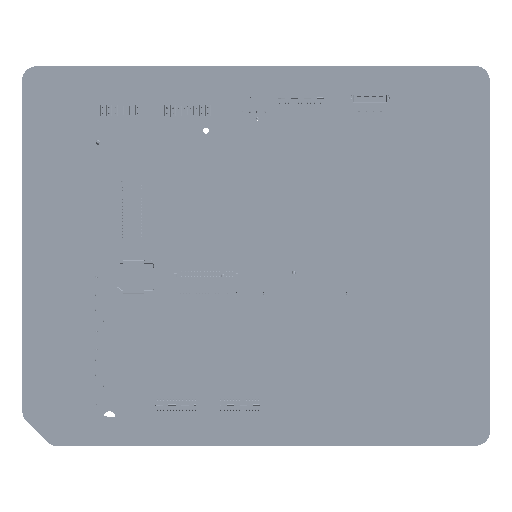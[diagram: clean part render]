
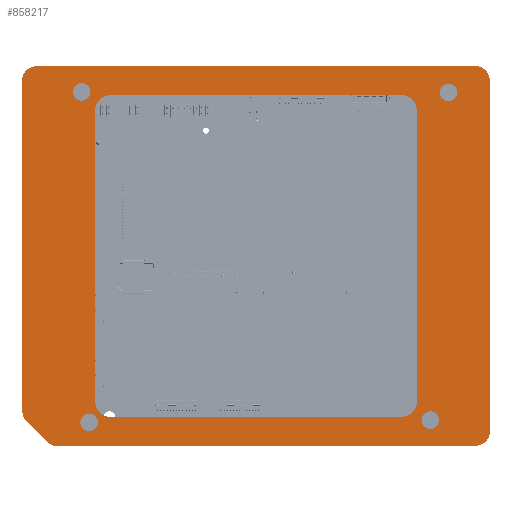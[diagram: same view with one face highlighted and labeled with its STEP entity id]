
A CAD part, front view. The second image highlights one B-rep face of the part: STEP entity #858217.
In plain terms, the highlighted planar face has unit normal (0, -1, 0).
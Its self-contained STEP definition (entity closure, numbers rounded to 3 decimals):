
#857464=CARTESIAN_POINT('',(-75.,0.,60.));
#857465=DIRECTION('',(0.,1.,0.));
#857466=DIRECTION('',(-1.,0.,0.));
#857467=AXIS2_PLACEMENT_3D('',#857464,#857465,#857466);
#857472=CARTESIAN_POINT('',(75.,0.,60.));
#857473=DIRECTION('',(0.,1.,0.));
#857474=DIRECTION('',(0.,0.,1.));
#857475=AXIS2_PLACEMENT_3D('',#857472,#857473,#857474);
#857480=CARTESIAN_POINT('',(75.,0.,-60.));
#857481=DIRECTION('',(0.,1.,0.));
#857482=DIRECTION('',(1.,0.,0.));
#857483=AXIS2_PLACEMENT_3D('',#857480,#857481,#857482);
#857488=CARTESIAN_POINT('',(-67.929,0.,-60.));
#857489=DIRECTION('',(0.,1.,0.));
#857490=DIRECTION('',(0.,0.,-1.));
#857491=AXIS2_PLACEMENT_3D('',#857488,#857489,#857490);
#857496=DIRECTION('',(-0.707,0.,0.707));
#857497=VECTOR('',#857496,10.);
#857498=CARTESIAN_POINT('',(-71.464,0.,-63.536));
#857499=LINE('',#857498,#857497);
#857503=CARTESIAN_POINT('',(-75.,0.,-52.929));
#857504=DIRECTION('',(0.,1.,0.));
#857505=DIRECTION('',(-0.707,0.,-0.707));
#857506=AXIS2_PLACEMENT_3D('',#857503,#857504,#857505);
#857511=CARTESIAN_POINT('',(65.89,0.,55.951));
#857512=DIRECTION('',(0.,-1.,0.));
#857513=DIRECTION('',(-1.,0.,0.));
#857514=AXIS2_PLACEMENT_3D('',#857511,#857512,#857513);
#857519=CARTESIAN_POINT('',(65.89,0.,55.951));
#857520=DIRECTION('',(0.,-1.,0.));
#857521=DIRECTION('',(1.,0.,0.));
#857522=AXIS2_PLACEMENT_3D('',#857519,#857520,#857521);
#857527=CARTESIAN_POINT('',(59.578,0.,-56.172));
#857528=DIRECTION('',(0.,-1.,0.));
#857529=DIRECTION('',(-1.,0.,0.));
#857530=AXIS2_PLACEMENT_3D('',#857527,#857528,#857529);
#857535=CARTESIAN_POINT('',(59.578,0.,-56.172));
#857536=DIRECTION('',(0.,-1.,0.));
#857537=DIRECTION('',(1.,0.,0.));
#857538=AXIS2_PLACEMENT_3D('',#857535,#857536,#857537);
#857543=CARTESIAN_POINT('',(-57.139,0.,-56.85));
#857544=DIRECTION('',(0.,-1.,0.));
#857545=DIRECTION('',(-1.,0.,0.));
#857546=AXIS2_PLACEMENT_3D('',#857543,#857544,#857545);
#857551=CARTESIAN_POINT('',(-57.139,0.,-56.85));
#857552=DIRECTION('',(0.,-1.,0.));
#857553=DIRECTION('',(1.,0.,0.));
#857554=AXIS2_PLACEMENT_3D('',#857551,#857552,#857553);
#857559=CARTESIAN_POINT('',(-50.,0.,-50.));
#857560=DIRECTION('',(0.,-1.,0.));
#857561=DIRECTION('',(-1.,0.,0.));
#857562=AXIS2_PLACEMENT_3D('',#857559,#857560,#857561);
#857567=CARTESIAN_POINT('',(50.,0.,-50.));
#857568=DIRECTION('',(0.,-1.,0.));
#857569=DIRECTION('',(0.,0.,-1.));
#857570=AXIS2_PLACEMENT_3D('',#857567,#857568,#857569);
#857575=CARTESIAN_POINT('',(50.,0.,50.));
#857576=DIRECTION('',(0.,-1.,0.));
#857577=DIRECTION('',(1.,0.,0.));
#857578=AXIS2_PLACEMENT_3D('',#857575,#857576,#857577);
#857583=CARTESIAN_POINT('',(-50.,0.,50.));
#857584=DIRECTION('',(0.,-1.,0.));
#857585=DIRECTION('',(0.,0.,1.));
#857586=AXIS2_PLACEMENT_3D('',#857583,#857584,#857585);
#857591=CARTESIAN_POINT('',(-59.586,0.,56.182));
#857592=DIRECTION('',(0.,-1.,0.));
#857593=DIRECTION('',(-1.,0.,0.));
#857594=AXIS2_PLACEMENT_3D('',#857591,#857592,#857593);
#857599=CARTESIAN_POINT('',(-59.586,0.,56.182));
#857600=DIRECTION('',(0.,-1.,0.));
#857601=DIRECTION('',(1.,0.,0.));
#857602=AXIS2_PLACEMENT_3D('',#857599,#857600,#857601);
#857621=DIRECTION('',(0.,0.,-1.));
#857622=VECTOR('',#857621,112.929);
#857623=CARTESIAN_POINT('',(-80.,0.,60.));
#857624=LINE('',#857623,#857622);
#857855=DIRECTION('',(1.,0.,0.));
#857856=VECTOR('',#857855,142.929);
#857857=CARTESIAN_POINT('',(-67.929,0.,-65.));
#857858=LINE('',#857857,#857856);
#857876=DIRECTION('',(0.,0.,1.));
#857877=VECTOR('',#857876,120.);
#857878=CARTESIAN_POINT('',(80.,0.,-60.));
#857879=LINE('',#857878,#857877);
#857897=DIRECTION('',(-1.,0.,0.));
#857898=VECTOR('',#857897,150.);
#857899=CARTESIAN_POINT('',(75.,0.,65.));
#857900=LINE('',#857899,#857898);
#857946=DIRECTION('',(-1.,0.,0.));
#857947=VECTOR('',#857946,100.);
#857948=CARTESIAN_POINT('',(50.,0.,-55.));
#857949=LINE('',#857948,#857947);
#857967=DIRECTION('',(0.,0.,1.));
#857968=VECTOR('',#857967,100.);
#857969=CARTESIAN_POINT('',(-55.,0.,-50.));
#857970=LINE('',#857969,#857968);
#857988=DIRECTION('',(1.,0.,0.));
#857989=VECTOR('',#857988,100.);
#857990=CARTESIAN_POINT('',(-50.,0.,55.));
#857991=LINE('',#857990,#857989);
#858009=DIRECTION('',(0.,0.,-1.));
#858010=VECTOR('',#858009,100.);
#858011=CARTESIAN_POINT('',(55.,0.,50.));
#858012=LINE('',#858011,#858010);
#858044=CARTESIAN_POINT('',(-80.,0.,60.));
#858045=CARTESIAN_POINT('',(-75.,0.,65.));
#858046=VERTEX_POINT('',#858044);
#858047=VERTEX_POINT('',#858045);
#858048=CARTESIAN_POINT('',(75.,0.,65.));
#858049=VERTEX_POINT('',#858048);
#858050=CARTESIAN_POINT('',(80.,0.,60.));
#858051=VERTEX_POINT('',#858050);
#858052=CARTESIAN_POINT('',(80.,0.,-60.));
#858053=VERTEX_POINT('',#858052);
#858054=CARTESIAN_POINT('',(75.,0.,-65.));
#858055=VERTEX_POINT('',#858054);
#858056=CARTESIAN_POINT('',(-67.929,0.,-65.));
#858057=VERTEX_POINT('',#858056);
#858058=CARTESIAN_POINT('',(-71.464,0.,-63.536));
#858059=VERTEX_POINT('',#858058);
#858060=CARTESIAN_POINT('',(-78.536,0.,-56.464));
#858061=VERTEX_POINT('',#858060);
#858062=CARTESIAN_POINT('',(-80.,0.,-52.929));
#858063=VERTEX_POINT('',#858062);
#858064=CARTESIAN_POINT('',(64.24,0.,55.951));
#858065=CARTESIAN_POINT('',(67.54,0.,55.951));
#858066=VERTEX_POINT('',#858064);
#858067=VERTEX_POINT('',#858065);
#858068=CARTESIAN_POINT('',(57.928,0.,-56.172));
#858069=CARTESIAN_POINT('',(61.228,0.,-56.172));
#858070=VERTEX_POINT('',#858068);
#858071=VERTEX_POINT('',#858069);
#858072=CARTESIAN_POINT('',(-58.789,0.,-56.85));
#858073=CARTESIAN_POINT('',(-55.489,0.,-56.85));
#858074=VERTEX_POINT('',#858072);
#858075=VERTEX_POINT('',#858073);
#858076=CARTESIAN_POINT('',(-55.,0.,-50.));
#858077=CARTESIAN_POINT('',(-55.,0.,50.));
#858078=VERTEX_POINT('',#858076);
#858079=VERTEX_POINT('',#858077);
#858080=CARTESIAN_POINT('',(-50.,0.,-55.));
#858081=VERTEX_POINT('',#858080);
#858082=CARTESIAN_POINT('',(50.,0.,-55.));
#858083=VERTEX_POINT('',#858082);
#858084=CARTESIAN_POINT('',(55.,0.,-50.));
#858085=VERTEX_POINT('',#858084);
#858086=CARTESIAN_POINT('',(55.,0.,50.));
#858087=VERTEX_POINT('',#858086);
#858088=CARTESIAN_POINT('',(50.,0.,55.));
#858089=VERTEX_POINT('',#858088);
#858090=CARTESIAN_POINT('',(-50.,0.,55.));
#858091=VERTEX_POINT('',#858090);
#858092=CARTESIAN_POINT('',(-61.236,0.,56.182));
#858093=CARTESIAN_POINT('',(-57.936,0.,56.182));
#858094=VERTEX_POINT('',#858092);
#858095=VERTEX_POINT('',#858093);
#858148=CARTESIAN_POINT('',(0.,0.,0.));
#858149=DIRECTION('',(0.,1.,0.));
#858150=DIRECTION('',(1.,0.,0.));
#858151=AXIS2_PLACEMENT_3D('',#858148,#858149,#858150);
#858152=PLANE('',#858151);
#858154=ORIENTED_EDGE('',*,*,#858153,.T.);
#858156=ORIENTED_EDGE('',*,*,#858155,.F.);
#858158=ORIENTED_EDGE('',*,*,#858157,.T.);
#858160=ORIENTED_EDGE('',*,*,#858159,.F.);
#858162=ORIENTED_EDGE('',*,*,#858161,.T.);
#858164=ORIENTED_EDGE('',*,*,#858163,.F.);
#858166=ORIENTED_EDGE('',*,*,#858165,.T.);
#858168=ORIENTED_EDGE('',*,*,#858167,.T.);
#858170=ORIENTED_EDGE('',*,*,#858169,.T.);
#858172=ORIENTED_EDGE('',*,*,#858171,.F.);
#858173=EDGE_LOOP('',(#858154,#858156,#858158,#858160,#858162,#858164,#858166,
#858168,#858170,#858172));
#858174=FACE_OUTER_BOUND('',#858173,.F.);
#858176=ORIENTED_EDGE('',*,*,#858175,.T.);
#858178=ORIENTED_EDGE('',*,*,#858177,.T.);
#858179=EDGE_LOOP('',(#858176,#858178));
#858180=FACE_BOUND('',#858179,.F.);
#858182=ORIENTED_EDGE('',*,*,#858181,.T.);
#858184=ORIENTED_EDGE('',*,*,#858183,.T.);
#858185=EDGE_LOOP('',(#858182,#858184));
#858186=FACE_BOUND('',#858185,.F.);
#858188=ORIENTED_EDGE('',*,*,#858187,.T.);
#858190=ORIENTED_EDGE('',*,*,#858189,.T.);
#858191=EDGE_LOOP('',(#858188,#858190));
#858192=FACE_BOUND('',#858191,.F.);
#858194=ORIENTED_EDGE('',*,*,#858193,.F.);
#858196=ORIENTED_EDGE('',*,*,#858195,.T.);
#858198=ORIENTED_EDGE('',*,*,#858197,.F.);
#858200=ORIENTED_EDGE('',*,*,#858199,.T.);
#858202=ORIENTED_EDGE('',*,*,#858201,.F.);
#858204=ORIENTED_EDGE('',*,*,#858203,.T.);
#858206=ORIENTED_EDGE('',*,*,#858205,.F.);
#858208=ORIENTED_EDGE('',*,*,#858207,.T.);
#858209=EDGE_LOOP('',(#858194,#858196,#858198,#858200,#858202,#858204,#858206,
#858208));
#858210=FACE_BOUND('',#858209,.F.);
#858212=ORIENTED_EDGE('',*,*,#858211,.T.);
#858214=ORIENTED_EDGE('',*,*,#858213,.T.);
#858215=EDGE_LOOP('',(#858212,#858214));
#858216=FACE_BOUND('',#858215,.F.);
#857468=CIRCLE('',#857467,5.);
#857476=CIRCLE('',#857475,5.);
#857484=CIRCLE('',#857483,5.);
#857492=CIRCLE('',#857491,5.);
#857507=CIRCLE('',#857506,5.);
#857515=CIRCLE('',#857514,1.65);
#857523=CIRCLE('',#857522,1.65);
#857531=CIRCLE('',#857530,1.65);
#857539=CIRCLE('',#857538,1.65);
#857547=CIRCLE('',#857546,1.65);
#857555=CIRCLE('',#857554,1.65);
#857563=CIRCLE('',#857562,5.);
#857571=CIRCLE('',#857570,5.);
#857579=CIRCLE('',#857578,5.);
#857587=CIRCLE('',#857586,5.);
#857595=CIRCLE('',#857594,1.65);
#857603=CIRCLE('',#857602,1.65);
#858153=EDGE_CURVE('',#858046,#858047,#857468,.T.);
#858155=EDGE_CURVE('',#858049,#858047,#857900,.T.);
#858157=EDGE_CURVE('',#858049,#858051,#857476,.T.);
#858159=EDGE_CURVE('',#858053,#858051,#857879,.T.);
#858161=EDGE_CURVE('',#858053,#858055,#857484,.T.);
#858163=EDGE_CURVE('',#858057,#858055,#857858,.T.);
#858165=EDGE_CURVE('',#858057,#858059,#857492,.T.);
#858167=EDGE_CURVE('',#858059,#858061,#857499,.T.);
#858169=EDGE_CURVE('',#858061,#858063,#857507,.T.);
#858171=EDGE_CURVE('',#858046,#858063,#857624,.T.);
#858175=EDGE_CURVE('',#858066,#858067,#857515,.T.);
#858177=EDGE_CURVE('',#858067,#858066,#857523,.T.);
#858181=EDGE_CURVE('',#858070,#858071,#857531,.T.);
#858183=EDGE_CURVE('',#858071,#858070,#857539,.T.);
#858187=EDGE_CURVE('',#858074,#858075,#857547,.T.);
#858189=EDGE_CURVE('',#858075,#858074,#857555,.T.);
#858193=EDGE_CURVE('',#858078,#858079,#857970,.T.);
#858195=EDGE_CURVE('',#858078,#858081,#857563,.T.);
#858197=EDGE_CURVE('',#858083,#858081,#857949,.T.);
#858199=EDGE_CURVE('',#858083,#858085,#857571,.T.);
#858201=EDGE_CURVE('',#858087,#858085,#858012,.T.);
#858203=EDGE_CURVE('',#858087,#858089,#857579,.T.);
#858205=EDGE_CURVE('',#858091,#858089,#857991,.T.);
#858207=EDGE_CURVE('',#858091,#858079,#857587,.T.);
#858211=EDGE_CURVE('',#858094,#858095,#857595,.T.);
#858213=EDGE_CURVE('',#858095,#858094,#857603,.T.);
#858217=ADVANCED_FACE('',(#858174,#858180,#858186,#858192,#858210,#858216),
#858152,.F.);
